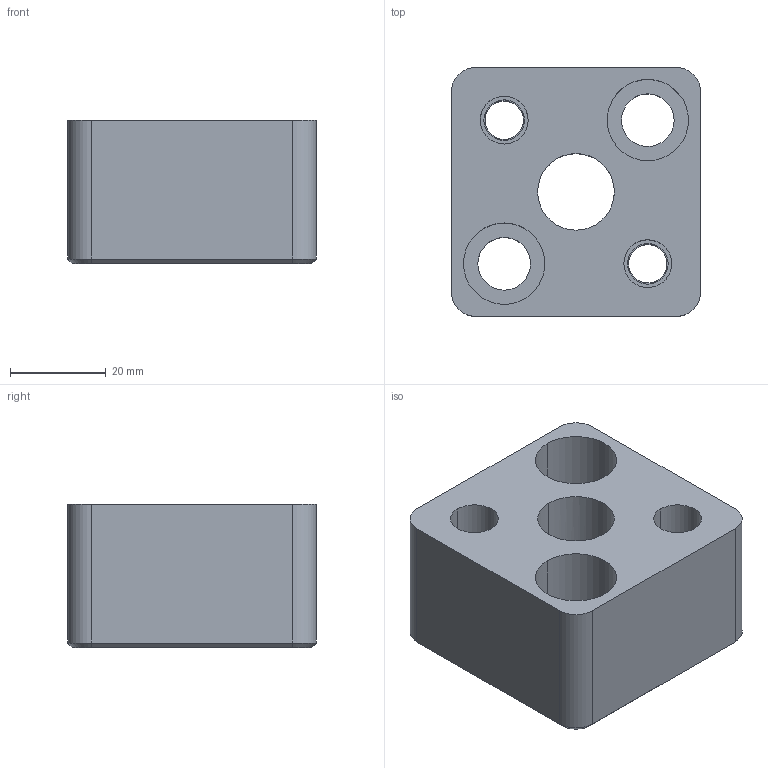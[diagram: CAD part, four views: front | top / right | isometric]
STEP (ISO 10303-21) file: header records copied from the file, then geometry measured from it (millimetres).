
FILE_DESCRIPTION(/* description */ (''),/* implementation_level */ '2;1');
FILE_NAME(/* name */ '3d_hsr-fn16_04198_r00.stp',/* time_stamp */ '2011-01-10T14:14:34+09:00',/* author */ ('MISUMI'),/* organization */ (''),/* preprocessor_version */ 'ST-DEVELOPER v11',/* originating_system */ 'UGS - NX 5.0',/* authorisation */ '');
FILE_SCHEMA (('CONFIG_CONTROL_DESIGN'));
Length unit declared in the file: millimetre
Products named in the file (1): 3d_hsr-fn16_04198_r00
Bounding box: 52 x 52 x 30 mm (x, y, z)
Volume: 61040 mm3; surface area: 16045.3 mm2
Topology: 1 solids, 1 shells, 55 faces, 132 edges, 85 vertices
Faces by surface type: cylinder 29, plane 20, cone 6
Entity records: 1732 total; most frequent: DIRECTION 304, CARTESIAN_POINT 290, ORIENTED_EDGE 264, EDGE_CURVE 132, AXIS2_PLACEMENT_3D 121, VERTEX_POINT 85, EDGE_LOOP 71, CIRCLE 65
